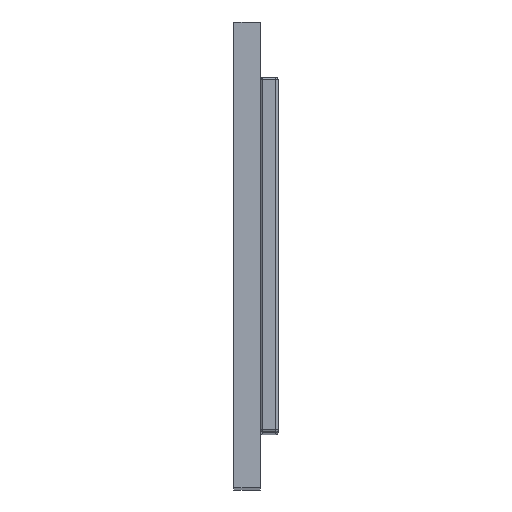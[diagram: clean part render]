
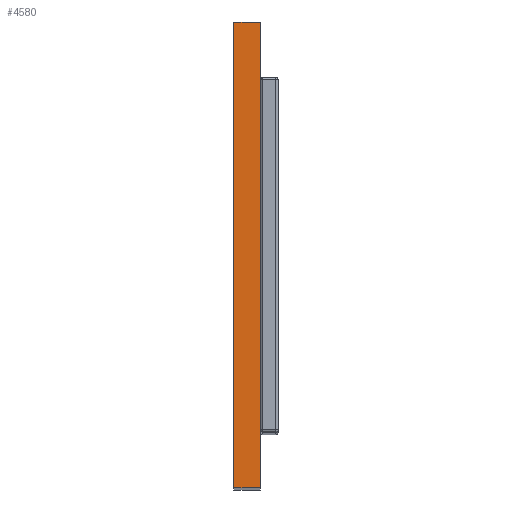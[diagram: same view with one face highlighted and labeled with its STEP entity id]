
A CAD part, top view. The second image highlights one B-rep face of the part: STEP entity #4580.
In plain terms, the highlighted planar face has unit normal (0, 0, 1).
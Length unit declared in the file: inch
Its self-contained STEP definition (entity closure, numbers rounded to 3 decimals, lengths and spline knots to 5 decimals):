
#3 = VECTOR ( 'NONE', #5672, 39.37008 ) ;
#81 = EDGE_CURVE ( 'NONE', #1946, #2032, #255, .T. ) ;
#255 = LINE ( 'NONE', #5729, #3 ) ;
#426 = VECTOR ( 'NONE', #3834, 39.37008 ) ;
#629 = VERTEX_POINT ( 'NONE', #2895 ) ;
#818 = CARTESIAN_POINT ( 'NONE',  ( 0.23622, 4.13386, 12.59843 ) ) ;
#1522 = VECTOR ( 'NONE', #3485, 39.37008 ) ;
#1946 = VERTEX_POINT ( 'NONE', #4977 ) ;
#1979 = AXIS2_PLACEMENT_3D ( 'NONE', #3241, #2143, #3788 ) ;
#2032 = VERTEX_POINT ( 'NONE', #6746 ) ;
#2134 = VERTEX_POINT ( 'NONE', #818 ) ;
#2143 = DIRECTION ( 'NONE',  ( 0., 0., -1. ) ) ;
#2220 = EDGE_CURVE ( 'NONE', #629, #2134, #5177, .T. ) ;
#2298 = ORIENTED_EDGE ( 'NONE', *, *, #2220, .F. ) ;
#2690 = PLANE ( 'NONE',  #1979 ) ;
#2765 = EDGE_CURVE ( 'NONE', #629, #1946, #2943, .T. ) ;
#2895 = CARTESIAN_POINT ( 'NONE',  ( 0., 4.13386, 12.59843 ) ) ;
#2943 = LINE ( 'NONE', #6233, #1522 ) ;
#2951 = LINE ( 'NONE', #6405, #426 ) ;
#3174 = EDGE_LOOP ( 'NONE', ( #3965, #3794, #2298, #6719 ) ) ;
#3241 = CARTESIAN_POINT ( 'NONE',  ( 0., 0., 12.59843 ) ) ;
#3485 = DIRECTION ( 'NONE',  ( 0., -1., 0. ) ) ;
#3788 = DIRECTION ( 'NONE',  ( -1., 0., 0. ) ) ;
#3794 = ORIENTED_EDGE ( 'NONE', *, *, #6069, .F. ) ;
#3834 = DIRECTION ( 'NONE',  ( 0., -1., 0. ) ) ;
#3965 = ORIENTED_EDGE ( 'NONE', *, *, #81, .T. ) ;
#4580 = ADVANCED_FACE ( 'NONE', ( #5692 ), #2690, .F. ) ;
#4581 = VECTOR ( 'NONE', #5913, 39.37008 ) ;
#4977 = CARTESIAN_POINT ( 'NONE',  ( 0., 0., 12.59843 ) ) ;
#5177 = LINE ( 'NONE', #7012, #4581 ) ;
#5672 = DIRECTION ( 'NONE',  ( 1., 0., 0. ) ) ;
#5692 = FACE_OUTER_BOUND ( 'NONE', #3174, .T. ) ;
#5729 = CARTESIAN_POINT ( 'NONE',  ( 0., 0., 12.59843 ) ) ;
#5913 = DIRECTION ( 'NONE',  ( 1., 0., 0. ) ) ;
#6069 = EDGE_CURVE ( 'NONE', #2134, #2032, #2951, .T. ) ;
#6233 = CARTESIAN_POINT ( 'NONE',  ( 0., 0., 12.59843 ) ) ;
#6405 = CARTESIAN_POINT ( 'NONE',  ( 0.23622, 0., 12.59843 ) ) ;
#6719 = ORIENTED_EDGE ( 'NONE', *, *, #2765, .T. ) ;
#6746 = CARTESIAN_POINT ( 'NONE',  ( 0.23622, 0., 12.59843 ) ) ;
#7012 = CARTESIAN_POINT ( 'NONE',  ( 0., 4.13386, 12.59843 ) ) ;
